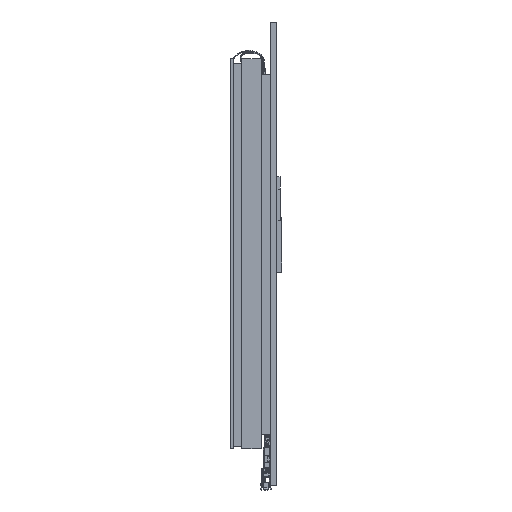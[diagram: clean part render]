
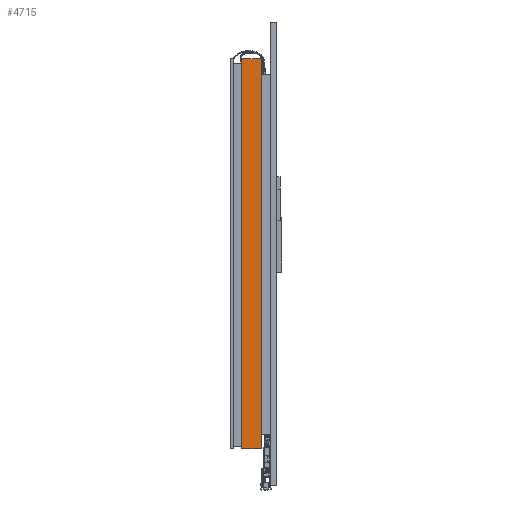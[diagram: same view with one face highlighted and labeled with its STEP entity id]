
A CAD part, left-side view. The second image highlights one B-rep face of the part: STEP entity #4715.
In plain terms, the highlighted planar face has unit normal (-1, 0, 0).
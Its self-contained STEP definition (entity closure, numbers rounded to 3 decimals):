
#151=DIRECTION('',(0.,0.,1.));
#152=VECTOR('',#151,99.8);
#153=CARTESIAN_POINT('',(-82.4,9.,-49.65));
#154=LINE('',#153,#152);
#241=DIRECTION('',(0.,1.,0.));
#242=VECTOR('',#241,5.);
#243=CARTESIAN_POINT('',(-82.4,4.,50.15));
#244=LINE('',#243,#242);
#249=DIRECTION('',(0.,0.,1.));
#250=VECTOR('',#249,99.8);
#251=CARTESIAN_POINT('',(-82.4,4.,-49.65));
#252=LINE('',#251,#250);
#297=DIRECTION('',(0.,1.,0.));
#298=VECTOR('',#297,5.);
#299=CARTESIAN_POINT('',(-82.4,4.,-49.65));
#300=LINE('',#299,#298);
#3469=CARTESIAN_POINT('',(-82.4,4.,-49.65));
#3470=CARTESIAN_POINT('',(-82.4,4.,50.15));
#3471=VERTEX_POINT('',#3469);
#3472=VERTEX_POINT('',#3470);
#3477=CARTESIAN_POINT('',(-82.4,9.,-49.65));
#3478=CARTESIAN_POINT('',(-82.4,9.,50.15));
#3479=VERTEX_POINT('',#3477);
#3480=VERTEX_POINT('',#3478);
#4703=CARTESIAN_POINT('',(-82.4,4.,-49.65));
#4704=DIRECTION('',(-1.,0.,0.));
#4705=DIRECTION('',(0.,0.,1.));
#4706=AXIS2_PLACEMENT_3D('',#4703,#4704,#4705);
#4707=PLANE('',#4706);
#4708=ORIENTED_EDGE('',*,*,#4674,.F.);
#4710=ORIENTED_EDGE('',*,*,#4709,.T.);
#4711=ORIENTED_EDGE('',*,*,#4497,.T.);
#4712=ORIENTED_EDGE('',*,*,#4650,.F.);
#4713=EDGE_LOOP('',(#4708,#4710,#4711,#4712));
#4714=FACE_OUTER_BOUND('',#4713,.F.);
#4497=EDGE_CURVE('',#3479,#3480,#154,.T.);
#4650=EDGE_CURVE('',#3472,#3480,#244,.T.);
#4674=EDGE_CURVE('',#3471,#3472,#252,.T.);
#4709=EDGE_CURVE('',#3471,#3479,#300,.T.);
#4715=ADVANCED_FACE('',(#4714),#4707,.T.);
